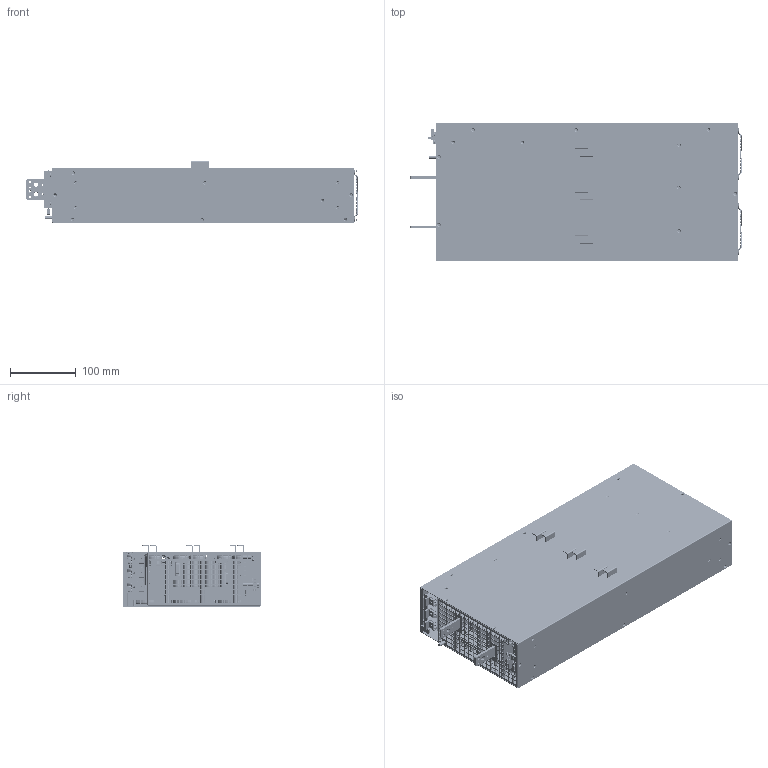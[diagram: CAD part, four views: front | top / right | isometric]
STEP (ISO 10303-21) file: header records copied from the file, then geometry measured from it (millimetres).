
FILE_DESCRIPTION((''),'2;1');
FILE_NAME('RST-7K5_ASM','2022-08-24T',('Vincent.Kao'),(''),'CREO PARAMETRIC BY PTC INC, 2016260','CREO PARAMETRIC BY PTC INC, 2016260','');
FILE_SCHEMA(('AUTOMOTIVE_DESIGN { 1 0 10303 214 1 1 1 1 }'));
Products named in the file (151): IRON_NET; FAN_FRAME; FAN; FAN_ASM; FAN_ALL_ASM; BOTTOM_COVER; SCREW_COLUMN-2; SCREW_5MM; BOTTOM_CASE_ASM; TOP_COVER; SCREW_COLUMN-1; COLUMN-3; COLUMN_4; COLUMN_7-5; COLUMN_19; BACK_COVER; CASE_ASM; HS-3; HS_ASM; PCB-A; PCB-A_LAYOUT; A-1; A-2; A-3; A-4; SI_COVER; THERMAL_PAD-1; THERMAL_PAD-4; PCB-A-2; PCB-A-2_LAYOUT; A-6; A-7; PCB-A-2_ASM; PCB-A-1_8; PCB-A-1_0118_ASM_8_ASM; PCB-A-1_0120_ASM; TR_COVER; FIXTURE-1; FIXTURE-2; FIXTURE_0622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
Assembly tree (313 placements, depth 5):
  RST-7K5_ASM
    CASE_ASM
      FAN_ALL_ASM
        IRON_NET  x2
        FAN_ASM  x2
          FAN_FRAME
          FAN
      BOTTOM_CASE_ASM
        BOTTOM_COVER
        SCREW_COLUMN-2  x3
        SCREW_5MM  x3
      TOP_COVER
      SCREW_COLUMN-1
      COLUMN-3  x4
      COLUMN_4  x2
      COLUMN_7-5  x9
      COLUMN_19  x3
      BACK_COVER
    HS_ASM
      HS-3
    PFC_BOARD_ASM
      PCB-A
      PCB-A_LAYOUT
      A-1  x3
      A-2  x3
      A-3  x6
      A-4  x3
      SI_COVER  x6
      THERMAL_PAD-1
      THERMAL_PAD-4
      PCB-A-2_ASM  x3
        PCB-A-2
        PCB-A-2_LAYOUT
        A-6
        A-7
      PCB-A-1_0120_ASM  x3
        PCB-A-1_0118_ASM_8_ASM
          PCB-A-1_8
      TR_COVER  x3
      FIXTURE-1
      FIXTURE-2
      FIXTURE_0622
    PWM_BOARD_ASM
      PCB-D
      PCB-D_LAYOUT
      MOS  x18
      PCB-IJ
      PCB_I
      PCB_J
      SI_COVER  x18
      1GG1HS-537  x15
      T300  x3
    H_BOARD_ASM
      PCB-H_
      PCB-H_LAYOUT_
      CAP_1109
      ERY-5549-1_ASM  x5
        BOBBIN-5549-1
        CORE-5549-1
        COPPER-5549-1
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Bounding box: 505.25 x 211 x 94 mm (x, y, z)
Volume: 3221009.4 mm3; surface area: 2729708.6 mm2
Topology: 385 solids, 387 shells, 10097 faces, 25841 edges, 16597 vertices
Faces by surface type: plane 6269, cylinder 2601, torus 676, cone 256, bspline 163, sphere 132
Entity records: 217254 total; most frequent: CARTESIAN_POINT 41678, DIRECTION 27504, ORIENTED_EDGE 26438, EDGE_CURVE 13239, PRESENTATION_STYLE_ASSIGNMENT 11865, STYLED_ITEM 11851, CURVE_STYLE 11674, AXIS2_PLACEMENT_3D 9188
